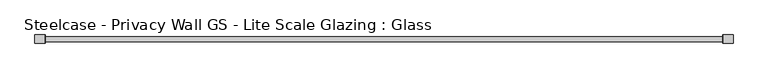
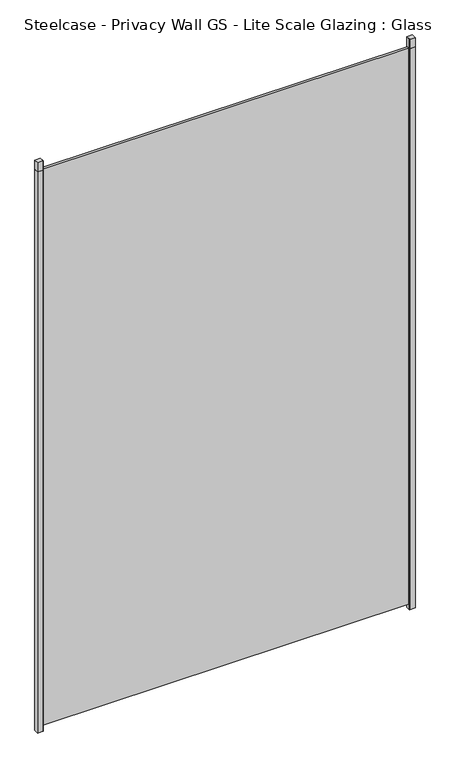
"""IFC4 building model written with IfcOpenShell, lengths in millimetres: plate geometry, Steelcase - Privacy Wall GS - Lite Scale Glazing : Glass."""

from ifc_helpers import new_model, si_unit, frame, origin, origin_with_axes, place, context, project, spatial, polyline, outline, extrude, source, transform, mapped, element, save


def steelcase_privacy_wall_gs_lite_scale_glazing_glass_143cb42d(model_context):
    return source(origin(), model_context, "Body", "SweptSolid", [
        extrude(outline(polyline([(928.128729, 11.7474777), (955.1161957, 11.7474777), (955.1161957, -11.7475002), (928.128729, -11.7475002), (928.128729, 11.7474777)])), frame((0.0, 0.0, 2970.784), z_axis=(0.0, 0.0, 1.0), x_axis=(1.0, 0.0, 0.0)), (0.0, 0.0, 1.0), 49.276),
        extrude(outline(polyline([(955.1161957, 11.7474777), (955.1161957, -11.7475002), (928.128729, -11.7475002), (928.128729, -6.3896792), (950.6239708, -6.3896792), (950.6239708, 6.3500051), (928.128729, 6.3500051), (928.128729, 11.7474777), (955.1161957, 11.7474777)])), frame((0.0, 0.0, -27.8638004), z_axis=(0.0, 0.0, 1.0), x_axis=(1.0, 0.0, 0.0)), (0.0, 0.0, 1.0), 2998.6478004),
        extrude(outline(polyline([(928.128729, 11.7474777), (928.128729, -11.7474954), (927.1, -11.7474954), (927.1, 11.7474777), (928.128729, 11.7474777)])), frame((0.0, 0.0, -27.8638004), z_axis=(0.0, 0.0, 1.0), x_axis=(1.0, 0.0, 0.0)), (0.0, 0.0, 1.0), 3047.9238004),
        extrude(outline(polyline([(-928.128729, 11.7474777), (-928.128729, -11.7475002), (-955.1161957, -11.7475002), (-955.1161957, 11.7474777), (-928.128729, 11.7474777)])), frame((0.0, 0.0, 2970.784), z_axis=(0.0, 0.0, 1.0), x_axis=(1.0, 0.0, 0.0)), (0.0, 0.0, 1.0), 49.276),
        extrude(outline(polyline([(-955.1161957, 11.7474777), (-928.128729, 11.7474777), (-928.128729, 6.3500051), (-950.6239708, 6.3500051), (-950.6239708, -6.3896792), (-928.128729, -6.3896792), (-928.128729, -11.7475002), (-955.1161957, -11.7475002), (-955.1161957, 11.7474777)])), frame((0.0, 0.0, -27.8638004), z_axis=(0.0, 0.0, 1.0), x_axis=(1.0, 0.0, 0.0)), (0.0, 0.0, 1.0), 2998.6478004),
        extrude(outline(polyline([(-928.128729, 11.7474777), (-927.1, 11.7474777), (-927.1, -11.7474954), (-928.128729, -11.7474954), (-928.128729, 11.7474777)])), frame((0.0, 0.0, -27.8638004), z_axis=(0.0, 0.0, 1.0), x_axis=(1.0, 0.0, 0.0)), (0.0, 0.0, 1.0), 3047.9238004),
        extrude(outline(polyline([(-925.068, -6.349956), (-925.068, 6.3502015), (925.068, 6.3502015), (925.068, -6.349956), (-925.068, -6.349956)])), origin_with_axes(), (0.0, 0.0, 1.0), 2970.784),
    ])


if __name__ == "__main__":
    model = new_model("IFC4")
    model_context = context("Model", 3, world=origin())
    ifc_project = project(units=[si_unit("LENGTHUNIT", "METRE", prefix="MILLI")], contexts=[model_context])
    site = spatial("IfcSite", under=ifc_project)
    building = spatial("IfcBuilding", under=site)
    placement = place(None, origin())
    steelcase_privacy_wall_gs_lite_scale_glazing_glass_shape = steelcase_privacy_wall_gs_lite_scale_glazing_glass_143cb42d(model_context)
    element("IfcPlate", 1, ObjectType="Steelcase - Privacy Wall GS - Lite Scale Glazing : Glass", at=placement, inside=building, context=model_context, shape_type="MappedRepresentation", body=[
        mapped(steelcase_privacy_wall_gs_lite_scale_glazing_glass_shape, transform((0.0, 0.0, 0.0), x_axis=(1.0, 0.0, 0.0), y_axis=(0.0, 1.0, 0.0), z_axis=(0.0, 0.0, 1.0))),
    ])
    save(model, "model.ifc")
